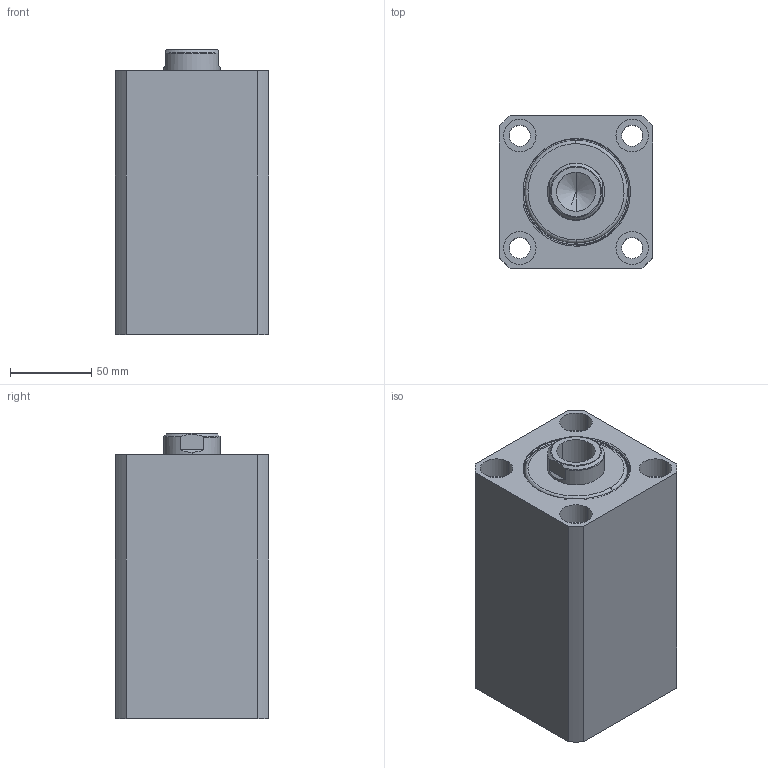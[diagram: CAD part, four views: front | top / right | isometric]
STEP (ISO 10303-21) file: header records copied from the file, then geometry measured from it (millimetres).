
FILE_DESCRIPTION (( 'STEP AP214' ), '1' );
FILE_NAME ('chtb-sd63x95n_asm.STEP', '2018-05-09T01:53:52', ( 'Windows' ), ( 'Microsoft' ), 'SwSTEP 2.0', 'SolidWorks 2015', '' );
FILE_SCHEMA (( 'AUTOMOTIVE_DESIGN' ));
Length unit declared in the file: millimetre
Products named in the file (4): CHTB63X95NHSG; CHTB63X95NBT; CHTB-63QG; chtb-sd63x95n_asm
Assembly tree (3 placements, depth 2):
  chtb-sd63x95n_asm
    CHTB-63QG
    CHTB63X95NBT
    CHTB63X95NHSG
Bounding box: 94 x 94 x 175 mm (x, y, z)
Volume: 1106448.4 mm3; surface area: 181961.4 mm2
Topology: 3 solids, 3 shells, 165 faces, 465 edges, 318 vertices
Faces by surface type: cylinder 101, plane 33, bspline 12, cone 12, torus 7
Entity records: 17638 total; most frequent: CARTESIAN_POINT 13505, ORIENTED_EDGE 918, DIRECTION 719, EDGE_CURVE 459, VERTEX_POINT 318, AXIS2_PLACEMENT_3D 291, EDGE_LOOP 197, ADVANCED_FACE 165
